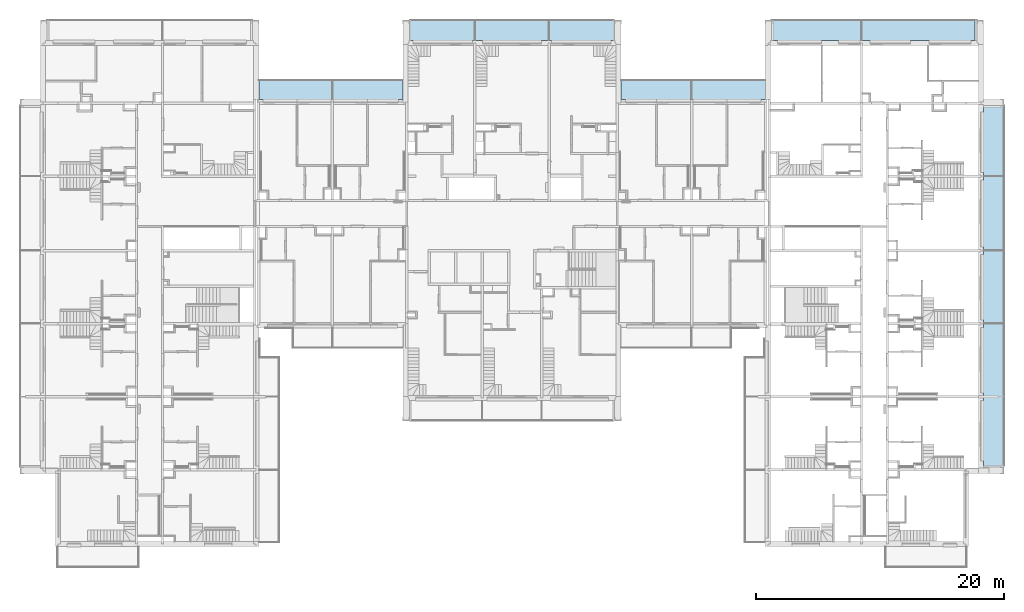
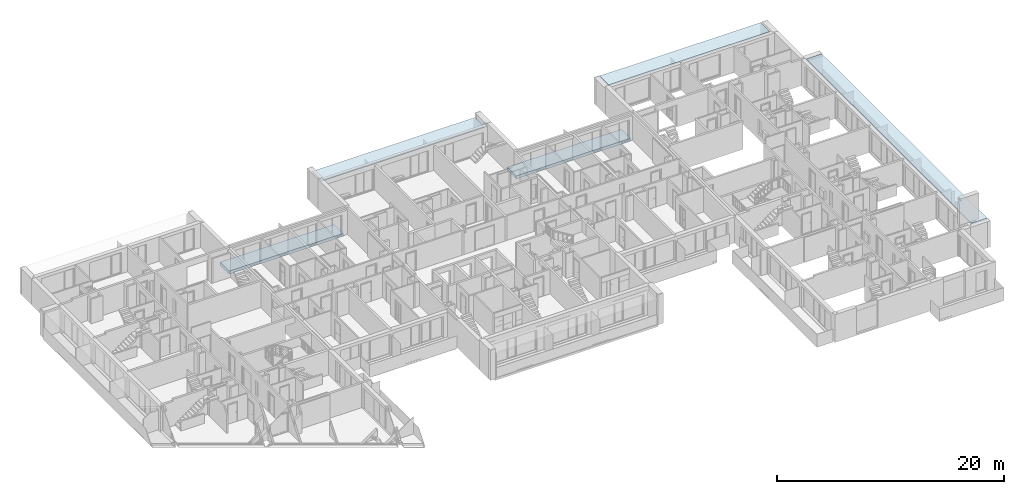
# One storey, part 2 of 61: 5 slabs.
"""IFC2X3 building model written with IfcOpenShell, lengths in millimetres."""

from ifc_helpers import new_model, entity, si_unit, converted_unit, derived_unit, money_unit, direction, frame, origin_with_axes, place, context, subcontext, project, spatial, faceted_brep, material, material_list, type_object, element, save


model = new_model("IFC2X3")

# Units and contexts
model_context = context("Model", 3, precision=0.01, world=origin_with_axes(), true_north=direction((0.34421633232, 0.938890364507)))
body_context = subcontext(model_context, "Body", "Model", "MODEL_VIEW")
ifc_project = project(units=[si_unit("LENGTHUNIT", "METRE", prefix="MILLI"), si_unit("AREAUNIT", "SQUARE_METRE"), si_unit("VOLUMEUNIT", "CUBIC_METRE"), converted_unit("PLANEANGLEUNIT", "DEGREE", entity("IfcPlaneAngleMeasure", 0.0174532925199), si_unit("PLANEANGLEUNIT", "RADIAN"), dimensions=[0, 0, 0, 0, 0, 0, 0]), si_unit("SOLIDANGLEUNIT", "STERADIAN"), money_unit("USD"), converted_unit("TIMEUNIT", "Year", entity("IfcTimeMeasure", 31556926.0), si_unit("TIMEUNIT", "SECOND"), dimensions=[0, 0, 1, 0, 0, 0, 0]), si_unit("MASSUNIT", "GRAM", prefix="KILO"), si_unit("THERMODYNAMICTEMPERATUREUNIT", "DEGREE_CELSIUS"), si_unit("LUMINOUSINTENSITYUNIT", "LUMEN"), si_unit("ENERGYUNIT", "JOULE", prefix="MEGA"), derived_unit("THERMALCONDUCTANCEUNIT", [(si_unit("POWERUNIT", "WATT"), 1), (si_unit("LENGTHUNIT", "METRE"), -1), (si_unit("THERMODYNAMICTEMPERATUREUNIT", "KELVIN"), -1)]), derived_unit("SPECIFICHEATCAPACITYUNIT", [(si_unit("ENERGYUNIT", "JOULE"), 1), (si_unit("MASSUNIT", "GRAM", prefix="KILO"), -1), (si_unit("THERMODYNAMICTEMPERATUREUNIT", "KELVIN"), -1)]), derived_unit("MASSDENSITYUNIT", [(si_unit("MASSUNIT", "GRAM", prefix="KILO"), 1), (si_unit("VOLUMEUNIT", "CUBIC_METRE"), -1)])], contexts=[model_context])

# Site, building, storey
site_placement = place(None, origin_with_axes())
site = spatial("IfcSite", under=ifc_project, at=site_placement, Name="USTRONIE MORSKIE", CompositionType="ELEMENT")
building_placement = place(site_placement, origin_with_axes())
building = spatial("IfcBuilding", under=site, at=building_placement, Name="Budynek", CompositionType="ELEMENT")
storey_placement = place(building_placement, frame((0.0, 0.0, 13000.0), z_axis=(0.0, 0.0, 1.0), x_axis=(1.0, 0.0, 0.0)))
storey = spatial("IfcBuildingStorey", under=building, at=storey_placement, Name="PIĘTRO 4", CompositionType="ELEMENT", Elevation=13000.0)

# Slabs
ifc_material_1 = material(Name="Płytki okładzinowe")
ifc_material_2 = material(Name="Pustka powietrzna")
ifc_material_3 = material(Name="Membrana przeciwwilgociowa")
ifc_material_4 = material(Name="Beton konstrukcyjny B25")
ifc_material_5 = material(Name="Laminat")
ifc_material_list = material_list([ifc_material_1, ifc_material_2, ifc_material_3, ifc_material_4, ifc_material_5])
slab_type_1 = type_object("IfcSlabType", Name="Balkony na HALFENACH 330", PredefinedType="FLOOR")
slab_1_placement = place(storey_placement, frame((408267.920919, 745001.199087, -50.0), z_axis=(0.0, 0.0, 1.0), x_axis=(1.0, 0.0, 0.0)))
element("IfcSlab", 1, at=slab_1_placement, inside=storey, type_object=slab_type_1, material=ifc_material_list, Name="P3", PredefinedType="FLOOR", context=body_context, shape_type="Brep", body=[
    faceted_brep([(0.0, 0.0, -25.0), (0.0, 1599.99504792, -25.0), (0.0, 1599.99504792, 0.0), (0.0, 0.0, 0.0), (-11650.0, 0.0132933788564, -25.0), (-11650.0, 1599.99504792, -25.0), (-11650.0, 1599.99504792, 0.0), (-11650.0, 0.0132933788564, 0.0)], [[[0, 1, 2, 3]], [[1, 0, 4, 5]], [[1, 5, 6, 2]], [[7, 3, 2, 6]], [[4, 0, 3, 7]], [[5, 4, 7, 6]]]),
    faceted_brep([(0.0, 0.0, -105.0), (0.0, 1599.99504792, -105.0), (0.0, 1599.99504792, -25.0), (0.0, 0.0, -25.0), (-11650.0, 0.0132933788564, -105.0), (-11650.0, 1599.99504792, -105.0), (-11650.0, 1599.99504792, -25.0), (-11650.0, 0.0132933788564, -25.0)], [[[0, 1, 2, 3]], [[1, 0, 4, 5]], [[1, 5, 6, 2]], [[7, 3, 2, 6]], [[4, 0, 3, 7]], [[5, 4, 7, 6]]]),
    faceted_brep([(0.0, 0.0, -110.0), (0.0, 1599.99504792, -110.0), (0.0, 1599.99504792, -105.0), (0.0, 0.0, -105.0), (-11650.0, 0.0132933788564, -110.0), (-11650.0, 1599.99504792, -110.0), (-11650.0, 1599.99504792, -105.0), (-11650.0, 0.0132933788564, -105.0)], [[[0, 1, 2, 3]], [[1, 0, 4, 5]], [[1, 5, 6, 2]], [[7, 3, 2, 6]], [[4, 0, 3, 7]], [[5, 4, 7, 6]]]),
    faceted_brep([(0.0, 1599.99504792, -310.0), (0.0, 1599.99504792, -110.0), (0.0, 0.0, -110.0), (0.0, 0.0, -310.0), (-11650.0, 1599.99504792, -310.0), (-11650.0, 1599.99504792, -110.0), (-11650.0, 0.0132933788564, -110.0), (-11650.0, 0.0132933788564, -310.0)], [[[0, 1, 2, 3]], [[4, 5, 1, 0]], [[2, 1, 5, 6]], [[3, 2, 6, 7]], [[3, 7, 4, 0]], [[7, 6, 5, 4]]]),
    faceted_brep([(-11640.0, 10.000234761, -310.0), (-10.0, 10.000234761, -310.0), (-10.0, 1599.99504792, -310.0), (-11640.0, 1599.99504792, -310.0), (-10.0, 10.000234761, -330.0), (-11640.0, 10.000234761, -330.0), (-10.0, 1599.99504792, -330.0), (-11640.0, 1599.99504792, -330.0)], [[[0, 1, 2, 3]], [[4, 1, 0, 5]], [[1, 4, 6, 2]], [[2, 6, 7, 3]], [[5, 0, 3, 7]], [[4, 5, 7, 6]]]),
])
slab_2_placement = place(storey_placement, frame((367377.920919, 745001.199403, -50.0), z_axis=(0.0, 0.0, 1.0), x_axis=(1.0, 0.0, 0.0)))
element("IfcSlab", 2, at=slab_2_placement, inside=storey, type_object=slab_type_1, material=ifc_material_list, Name="P3", PredefinedType="FLOOR", context=body_context, shape_type="Brep", body=[
    faceted_brep([(11630.0, 0.0132705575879, -25.0), (11630.0, 0.0132705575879, 0.0), (0.0, 0.0, 0.0), (0.0, 0.0, -25.0), (11630.0, 1599.9947321, -25.0), (11630.0, 1599.9947321, 0.0), (0.0, 1599.9947321, 0.0), (0.0, 1599.9947321, -25.0)], [[[0, 1, 2, 3]], [[4, 5, 1, 0]], [[2, 1, 5, 6]], [[3, 2, 6, 7]], [[3, 7, 4, 0]], [[7, 6, 5, 4]]]),
    faceted_brep([(11630.0, 0.0132705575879, -105.0), (11630.0, 0.0132705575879, -25.0), (0.0, 0.0, -25.0), (0.0, 0.0, -105.0), (11630.0, 1599.9947321, -105.0), (11630.0, 1599.9947321, -25.0), (0.0, 1599.9947321, -25.0), (0.0, 1599.9947321, -105.0)], [[[0, 1, 2, 3]], [[4, 5, 1, 0]], [[2, 1, 5, 6]], [[3, 2, 6, 7]], [[3, 7, 4, 0]], [[7, 6, 5, 4]]]),
    faceted_brep([(11630.0, 0.0132705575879, -110.0), (11630.0, 0.0132705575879, -105.0), (0.0, 0.0, -105.0), (0.0, 0.0, -110.0), (11630.0, 1599.9947321, -110.0), (11630.0, 1599.9947321, -105.0), (0.0, 1599.9947321, -105.0), (0.0, 1599.9947321, -110.0)], [[[0, 1, 2, 3]], [[4, 5, 1, 0]], [[2, 1, 5, 6]], [[3, 2, 6, 7]], [[3, 7, 4, 0]], [[7, 6, 5, 4]]]),
    faceted_brep([(11630.0, 0.0132705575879, -310.0), (11630.0, 0.0132705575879, -110.0), (0.0, 0.0, -110.0), (0.0, 0.0, -310.0), (11630.0, 1599.9947321, -310.0), (11630.0, 1599.9947321, -110.0), (0.0, 1599.9947321, -110.0), (0.0, 1599.9947321, -310.0)], [[[0, 1, 2, 3]], [[4, 5, 1, 0]], [[2, 1, 5, 6]], [[3, 2, 6, 7]], [[3, 7, 4, 0]], [[7, 6, 5, 4]]]),
    faceted_brep([(0.0, 9.99991893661, -310.0), (11630.0, 9.99991893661, -310.0), (11630.0, 1599.9947321, -310.0), (0.0, 1599.9947321, -310.0), (11630.0, 9.99991893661, -330.0), (0.0, 9.99991893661, -330.0), (11630.0, 1599.9947321, -330.0), (0.0, 1599.9947321, -330.0)], [[[0, 1, 2, 3]], [[4, 1, 0, 5]], [[1, 4, 6, 2]], [[2, 6, 7, 3]], [[5, 0, 3, 7]], [[4, 5, 7, 6]]]),
])
slab_type_2 = type_object("IfcSlabType", Name="Laminat 150", PredefinedType="FLOOR")
slab_3_placement = place(storey_placement, frame((408777.787991, 749761.045484, 2629.99999792), z_axis=(0.0, 0.0, 1.0), x_axis=(1.0, 0.0, 0.0)))
element("IfcSlab", 3, at=slab_3_placement, inside=storey, type_object=slab_type_2, material=ifc_material_5, Name="P3", PredefinedType="FLOOR", context=body_context, shape_type="Brep", body=[
    faceted_brep([(16429.9854595, 1589.99446794, -150.0), (0.132928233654, 1589.84420975, -150.0), (0.132928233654, 1589.84420975, 0.0), (16429.9854595, 1589.99446794, 0.0), (15356.3516845, 0.140440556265, -150.0), (0.132928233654, 0.153375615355, -150.0), (16429.9999993, 0.150259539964, -150.0), (0.132928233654, 0.153375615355, 0.0), (15356.3516845, 0.140440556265, 0.0), (16429.9999993, 0.150259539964, 0.0)], [[[0, 1, 2, 3]], [[4, 5, 1, 0, 6]], [[5, 7, 2, 1]], [[3, 2, 7, 8, 9]], [[9, 6, 0, 3]], [[8, 7, 5, 4]], [[6, 9, 8, 4]]]),
])
slab_4_placement = place(storey_placement, frame((379527.787991, 749761.045484, 2599.99999792), z_axis=(0.0, 0.0, 1.0), x_axis=(1.0, 0.0, 0.0)))
element("IfcSlab", 4, at=slab_4_placement, inside=storey, type_object=slab_type_2, material=ifc_material_5, Name="P3", PredefinedType="FLOOR", context=body_context, shape_type="Brep", body=[
    faceted_brep([(16579.9853663, 1600.1820316, -150.0), (0.132928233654, 1600.03040159, -150.0), (0.132928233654, 1600.03040159, 0.0), (16579.9853663, 1600.1820316, 0.0), (16579.9999993, 0.153552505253, -150.0), (0.132928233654, 0.153552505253, -150.0), (0.132928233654, 0.153552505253, 0.0), (16579.9999993, 0.153552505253, 0.0)], [[[0, 1, 2, 3]], [[4, 5, 1, 0]], [[5, 6, 2, 1]], [[3, 2, 6, 7]], [[0, 3, 7, 4]], [[7, 6, 5, 4]]]),
])
slab_5_placement = place(storey_placement, frame((427467.920919, 715311.199036, 2629.99999792), z_axis=(0.0, 0.0, 1.0), x_axis=(1.0, 0.0, 0.0)))
element("IfcSlab", 5, at=slab_5_placement, inside=storey, type_object=slab_type_2, material=ifc_material_5, Name="P3", PredefinedType="FLOOR", context=body_context, shape_type="Brep", body=[
    faceted_brep([(0.0, 29180.0, 0.0), (0.0, 0.0, 0.0), (0.0, 0.0, -150.0), (0.0, 29180.0, -150.0), (-1590.0, 29180.0, 0.0), (-1590.0, 0.0, 0.0), (-1590.0, 0.0, -150.0), (-1590.0, 29180.0, -150.0)], [[[0, 1, 2, 3]], [[4, 5, 1, 0]], [[1, 5, 6, 2]], [[7, 3, 2, 6]], [[4, 0, 3, 7]], [[5, 4, 7, 6]]]),
])

save(model, "model.ifc")
